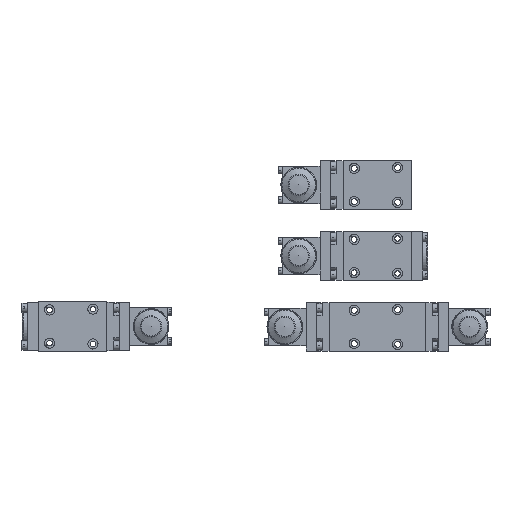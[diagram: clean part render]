
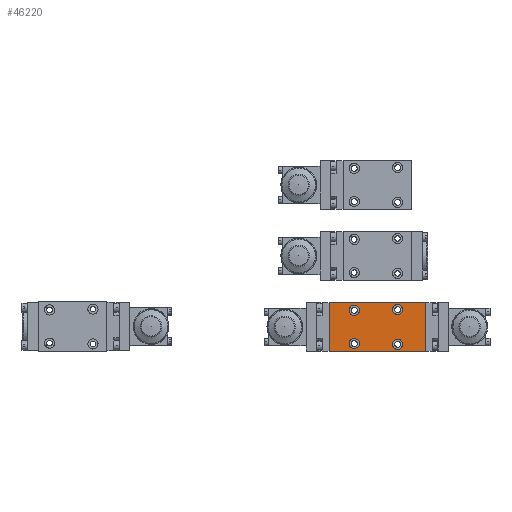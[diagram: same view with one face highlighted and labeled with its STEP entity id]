
A CAD part, top view. The second image highlights one B-rep face of the part: STEP entity #46220.
In plain terms, the highlighted planar face has unit normal (0, 0, 1).
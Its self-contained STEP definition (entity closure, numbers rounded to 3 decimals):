
#46220=ADVANCED_FACE('', (#46230,#46240,#46250,#46260,#46270), #46280, 
.T.);
#133690=AXIS2_PLACEMENT_3D('Ax2Pl3d', #133700, #133710, #133720);
#133730=AXIS2_PLACEMENT_3D('Ax2Pl3d', #133740, #133750, #133760);
#133770=AXIS2_PLACEMENT_3D('Ax2Pl3d', #133780, #133790, #133800);
#133810=AXIS2_PLACEMENT_3D('Ax2Pl3d', #133820, #133830, #133840);
#133850=AXIS2_PLACEMENT_3D('Ax2Pl3d', #133860, #133870, #133880);
#206600=CARTESIAN_POINT('', (90.,46.,46.));
#206610=CARTESIAN_POINT('', (90.,46.,46.));
#206620=CARTESIAN_POINT('', (90.,0.,46.));
#206760=CARTESIAN_POINT('', (0.,0.,46.));
#206770=CARTESIAN_POINT('', (0.,0.,46.));
#206780=CARTESIAN_POINT('', (0.,46.,46.));
#133700=CARTESIAN_POINT('HicPkt', (23.5,7.5,46.));
#207030=CARTESIAN_POINT('', (23.5,12.25,46.));
#133740=CARTESIAN_POINT('HicPkt', (0.,46.,46.));
#207040=CARTESIAN_POINT('', (90.,0.,46.));
#207050=CARTESIAN_POINT('', (0.,46.,46.));
#133780=CARTESIAN_POINT('HicPkt', (23.5,38.5,46.));
#207060=CARTESIAN_POINT('', (23.5,43.25,46.));
#133820=CARTESIAN_POINT('HicPkt', (64.,6.75,46.));
#207070=CARTESIAN_POINT('', (64.,11.5,46.));
#133860=CARTESIAN_POINT('HicPkt', (64.,39.25,46.));
#207080=CARTESIAN_POINT('', (64.,44.,46.));
#214500=CIRCLE('Circle', #133690, 4.75);
#214510=CIRCLE('Circle', #133770, 4.75);
#214520=CIRCLE('Circle', #133810, 4.75);
#214530=CIRCLE('Circle', #133850, 4.75);
#231750=DIRECTION('', (0.,1.,0.));
#231780=DIRECTION('', (0.,-1.,0.));
#133710=DIRECTION('Axis', (0.,0.,1.));
#133720=DIRECTION('RefDirection', (1.,0.,0.));
#133750=DIRECTION('Axis', (0.,0.,1.));
#133760=DIRECTION('RefDirection', (1.,0.,0.));
#231830=DIRECTION('', (1.,0.,0.));
#231840=DIRECTION('', (-1.,0.,0.));
#133790=DIRECTION('Axis', (0.,0.,1.));
#133800=DIRECTION('RefDirection', (1.,0.,0.));
#133830=DIRECTION('Axis', (0.,0.,1.));
#133840=DIRECTION('RefDirection', (1.,0.,0.));
#133870=DIRECTION('Axis', (0.,0.,1.));
#133880=DIRECTION('RefDirection', (1.,0.,0.));
#282480=EDGE_CURVE('', #282490, #282460, #282500, .T.);
#282770=EDGE_CURVE('', #282780, #282750, #282790, .T.);
#283270=EDGE_CURVE('', #283280, #283280, #214500, .T.);
#283290=EDGE_CURVE('', #282750, #282490, #283300, .T.);
#283310=EDGE_CURVE('', #282460, #282780, #283320, .T.);
#283330=EDGE_CURVE('', #283340, #283340, #214510, .T.);
#283350=EDGE_CURVE('', #283360, #283360, #214520, .T.);
#283370=EDGE_CURVE('', #283380, #283380, #214530, .T.);
#346000=EDGE_LOOP('Edge_loop', (#346010,#346020,#346030,#346040));
#346050=EDGE_LOOP('Edge_loop', (#346060));
#346070=EDGE_LOOP('Edge_loop', (#346080));
#346090=EDGE_LOOP('Edge_loop', (#346100));
#346110=EDGE_LOOP('Edge_loop', (#346120));
#46240=FACE_BOUND('', #346050, .T.);
#46250=FACE_BOUND('', #346070, .T.);
#46260=FACE_BOUND('', #346090, .T.);
#46270=FACE_BOUND('', #346110, .T.);
#46230=FACE_OUTER_BOUND('Face_outer_bound', #346000, .T.);
#282500=LINE('Line', #206610, #365960);
#282790=LINE('Line', #206770, #365990);
#283300=LINE('Line', #207040, #366040);
#283320=LINE('Line', #207050, #366050);
#346010=ORIENTED_EDGE('', *, *, #282770, .T.);
#346020=ORIENTED_EDGE('', *, *, #283290, .T.);
#346030=ORIENTED_EDGE('', *, *, #282480, .T.);
#346040=ORIENTED_EDGE('', *, *, #283310, .T.);
#346060=ORIENTED_EDGE('', *, *, #283270, .F.);
#346080=ORIENTED_EDGE('', *, *, #283330, .F.);
#346100=ORIENTED_EDGE('', *, *, #283350, .F.);
#346120=ORIENTED_EDGE('', *, *, #283370, .F.);
#46280=PLANE('Plane', #133730);
#365960=VECTOR('', #231750, 46.);
#365990=VECTOR('', #231780, 46.);
#366040=VECTOR('', #231830, 90.);
#366050=VECTOR('', #231840, 90.);
#282460=VERTEX_POINT('', #206600);
#282490=VERTEX_POINT('', #206620);
#282750=VERTEX_POINT('', #206760);
#282780=VERTEX_POINT('', #206780);
#283280=VERTEX_POINT('', #207030);
#283340=VERTEX_POINT('', #207060);
#283360=VERTEX_POINT('', #207070);
#283380=VERTEX_POINT('', #207080);
